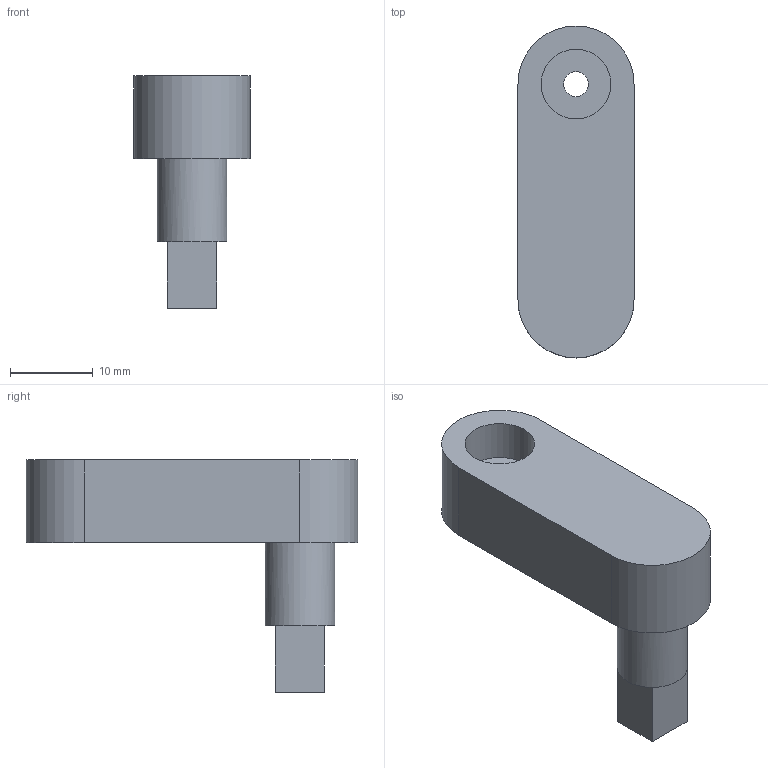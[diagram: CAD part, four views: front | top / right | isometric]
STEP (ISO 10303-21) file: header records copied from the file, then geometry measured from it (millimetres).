
FILE_DESCRIPTION(/* description */ (''),/* implementation_level */ '2;1');
FILE_NAME(/* name */ 'Link 4.step',/* time_stamp */ '2026-11-10T17:34:27+07:00',/* author */ (''),/* organization */ (''),/* preprocessor_version */ 'ST-DEVELOPER v20.2',/* originating_system */ 'Autodesk Translation Framework v15.17.0.0',/* authorisation */ '');
FILE_SCHEMA (('AUTOMOTIVE_DESIGN { 1 0 10303 214 3 1 1 }'));
Length unit declared in the file: millimetre
Products named in the file (1): 2026-11-08-14-58-04-611
Bounding box: 14 x 40 x 28 mm (x, y, z)
Volume: 5618.5 mm3; surface area: 2652.3 mm2
Topology: 1 solids, 1 shells, 21 faces, 40 edges, 24 vertices
Faces by surface type: plane 15, cylinder 6
Full cylindrical faces by diameter (mm): 3 x1, 6 x1, 8.4 x2
Entity records: 570 total; most frequent: DIRECTION 100, CARTESIAN_POINT 86, ORIENTED_EDGE 80, EDGE_CURVE 40, AXIS2_PLACEMENT_3D 38, EDGE_LOOP 26, LINE 24, VECTOR 24
